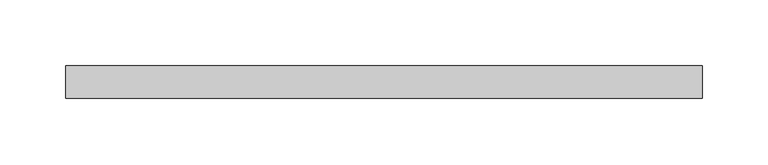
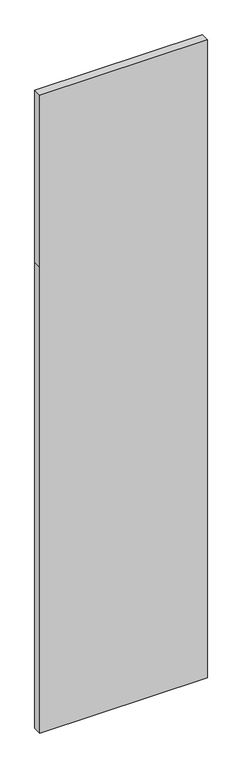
"""IFC4 building model written with IfcOpenShell, lengths in millimetres: plate geometry, Системная панель : ADSK_Cтеклопакет_25 мм."""

from ifc_helpers import new_model, si_unit, frame, origin, place, context, project, spatial, polyline, outline, extrude, source, transform, mapped, element, save


def plate_20cddcc4(model_context):
    return source(origin(), model_context, "Body", "SweptSolid", [
        extrude(outline(polyline([(0.0, -242.5087699), (0.0, 242.5087699), (1425.0, 242.5087699), (1950.0, 242.5087699), (1950.0, -242.5087699), (1425.0, -242.5087699), (0.0, -242.5087699)])), frame((0.0, -12.5, 0.0), z_axis=(0.0, 1.0, 0.0), x_axis=(0.0, 0.0, 1.0)), (0.0, 0.0, 1.0), 25.0),
    ])


if __name__ == "__main__":
    model = new_model("IFC4")
    model_context = context("Model", 3, world=origin())
    ifc_project = project(units=[si_unit("LENGTHUNIT", "METRE", prefix="MILLI")], contexts=[model_context])
    site = spatial("IfcSite", under=ifc_project)
    building = spatial("IfcBuilding", under=site)
    placement = place(None, origin())
    plate_shape = plate_20cddcc4(model_context)
    element("IfcPlate", 1, ObjectType="Системная панель : ADSK_Cтеклопакет_25 мм", at=placement, inside=building, context=model_context, shape_type="MappedRepresentation", body=[
        mapped(plate_shape, transform((0.0, 0.0, 0.0), x_axis=(1.0, 0.0, 0.0), y_axis=(0.0, 1.0, 0.0), z_axis=(0.0, 0.0, 1.0))),
    ])
    save(model, "model.ifc")
